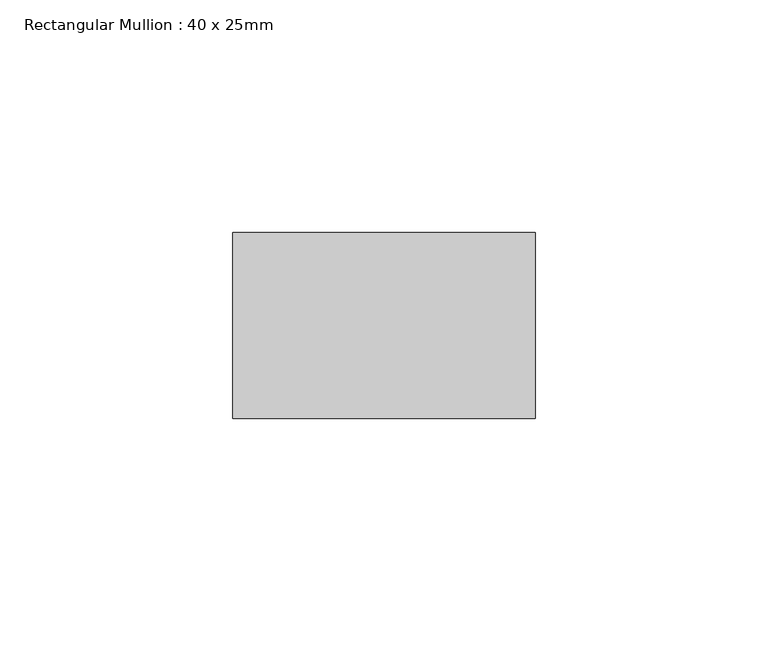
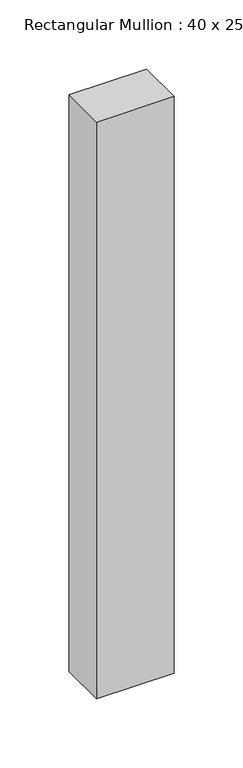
"""IFC4 building model written with IfcOpenShell, lengths in millimetres: member geometry, Rectangular Mullion : 40 x 25mm."""

from ifc_helpers import new_model, si_unit, frame, origin, place, context, project, spatial, polyline, outline, extrude, source, transform, mapped, element, save


def rectangular_mullion_40_x_25mm_9a4caf8e(model_context):
    return source(origin(), model_context, "Body", "SweptSolid", [
        extrude(outline(polyline([(0.0, -20.0), (0.0, -60.0), (-65.0, -60.0), (-65.0, -20.0), (0.0, -20.0)])), frame((0.0, 0.0, -510.0), z_axis=(0.0, 0.0, 1.0), x_axis=(1.0, 0.0, 0.0)), (0.0, 0.0, 1.0), 510.0),
    ])


if __name__ == "__main__":
    model = new_model("IFC4")
    model_context = context("Model", 3, world=origin())
    ifc_project = project(units=[si_unit("LENGTHUNIT", "METRE", prefix="MILLI")], contexts=[model_context])
    site = spatial("IfcSite", under=ifc_project)
    building = spatial("IfcBuilding", under=site)
    placement = place(None, origin())
    rectangular_mullion_40_x_25mm_shape = rectangular_mullion_40_x_25mm_9a4caf8e(model_context)
    element("IfcMember", 1, ObjectType="Rectangular Mullion : 40 x 25mm", at=placement, inside=building, context=model_context, shape_type="MappedRepresentation", body=[
        mapped(rectangular_mullion_40_x_25mm_shape, transform((0.0, 0.0, 0.0), x_axis=(1.0, 0.0, 0.0), y_axis=(0.0, 1.0, 0.0), z_axis=(0.0, 0.0, 1.0))),
    ])
    save(model, "model.ifc")
